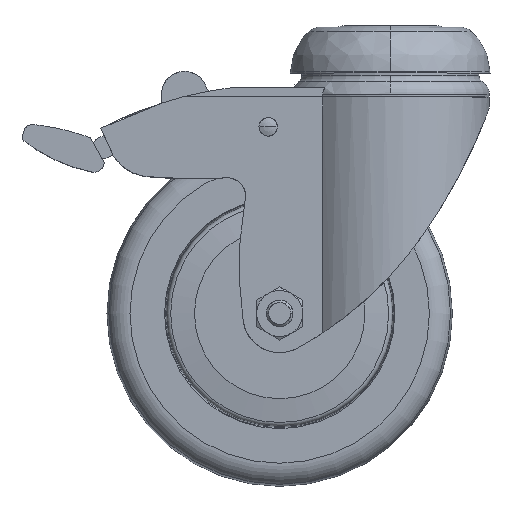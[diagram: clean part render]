
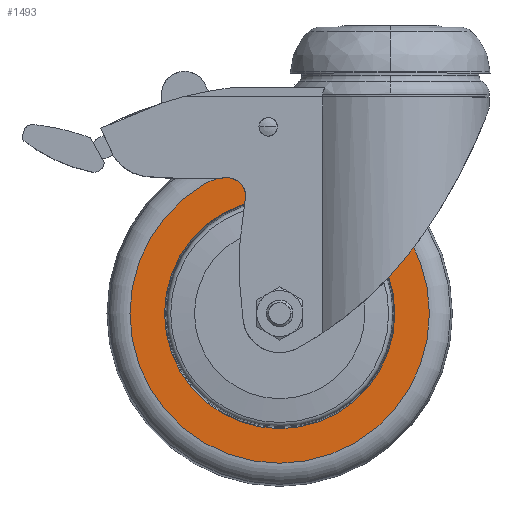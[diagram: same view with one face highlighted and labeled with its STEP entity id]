
A CAD part, top view. The second image highlights one B-rep face of the part: STEP entity #1493.
In plain terms, the highlighted planar face has unit normal (0, 0, 1).
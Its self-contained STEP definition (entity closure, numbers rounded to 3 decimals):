
#129=CARTESIAN_POINT('',(-24.,-30.0,12.5));
#130=VERTEX_POINT('',#129);
#131=CARTESIAN_POINT('',(-24.,-62.5,12.5));
#132=DIRECTION('',(0.0,0.0,-1.0));
#133=DIRECTION('',(-1.0,0.0,0.0));
#134=AXIS2_PLACEMENT_3D('',#131,#132,#133);
#135=CIRCLE('',#134,32.5);
#136=EDGE_CURVE('',#130,#130,#135,.T.);
#933=CARTESIAN_POINT('',(-49.0,-62.5,12.5));
#934=VERTEX_POINT('',#933);
#935=CARTESIAN_POINT('',(-24.,-62.5,12.5));
#936=DIRECTION('',(0.0,0.0,-1.0));
#937=DIRECTION('',(-1.0,0.0,0.0));
#938=AXIS2_PLACEMENT_3D('',#935,#936,#937);
#939=CIRCLE('',#938,25.0);
#940=EDGE_CURVE('',#934,#934,#939,.T.);
#1482=CARTESIAN_POINT('',(-24.,-33.75,12.5));
#1483=DIRECTION('',(0.0,0.0,1.0));
#1484=DIRECTION('',(1.0,0.0,0.0));
#1485=AXIS2_PLACEMENT_3D('',#1482,#1483,#1484);
#1486=PLANE('',#1485);
#1487=ORIENTED_EDGE('',*,*,#136,.F.);
#1488=EDGE_LOOP('',(#1487));
#1489=FACE_OUTER_BOUND('',#1488,.T.);
#1490=ORIENTED_EDGE('',*,*,#940,.T.);
#1491=EDGE_LOOP('',(#1490));
#1492=FACE_BOUND('',#1491,.T.);
#1493=ADVANCED_FACE('',(#1489,#1492),#1486,.T.);
